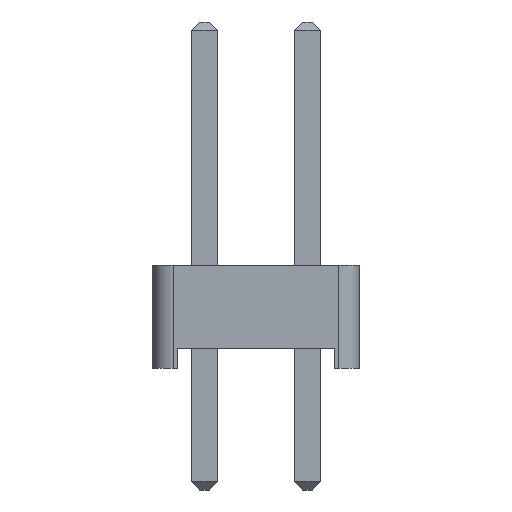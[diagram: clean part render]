
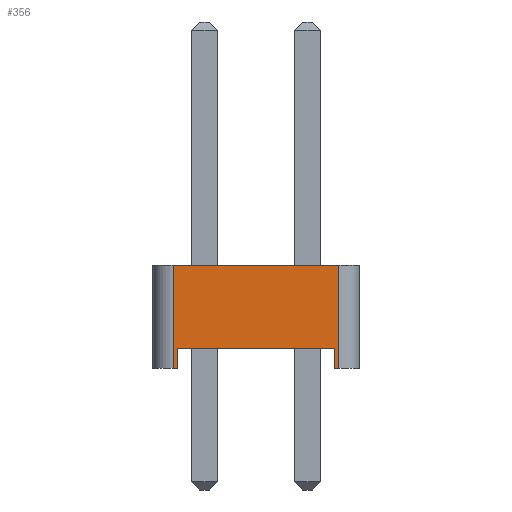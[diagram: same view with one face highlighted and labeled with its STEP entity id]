
A CAD part, left-side view. The second image highlights one B-rep face of the part: STEP entity #356.
In plain terms, the highlighted planar face has unit normal (-1, 0, 0).
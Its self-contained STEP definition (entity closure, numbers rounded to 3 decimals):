
#96 = VERTEX_POINT('',#97);
#97 = CARTESIAN_POINT('',(-1.27,2.04,0.));
#105 = PLANE('',#106);
#106 = AXIS2_PLACEMENT_3D('',#107,#108,#109);
#107 = CARTESIAN_POINT('',(0.,0.,0.));
#108 = DIRECTION('',(-0.,-0.,-1.));
#109 = DIRECTION('',(-1.,0.,0.));
#121 = CYLINDRICAL_SURFACE('',#122,0.5);
#122 = AXIS2_PLACEMENT_3D('',#123,#124,#125);
#123 = CARTESIAN_POINT('',(-0.77,2.04,0.));
#124 = DIRECTION('',(0.,0.,1.));
#125 = DIRECTION('',(0.,1.,0.));
#223 = VERTEX_POINT('',#224);
#224 = CARTESIAN_POINT('',(-1.27,1.94,0.));
#238 = PLANE('',#239);
#239 = AXIS2_PLACEMENT_3D('',#240,#241,#242);
#240 = CARTESIAN_POINT('',(1.27,1.94,0.));
#241 = DIRECTION('',(0.,-1.,0.));
#242 = DIRECTION('',(-1.,0.,0.));
#250 = EDGE_CURVE('',#223,#96,#251,.T.);
#251 = SURFACE_CURVE('',#252,(#256,#263),.PCURVE_S1.);
#252 = LINE('',#253,#254);
#253 = CARTESIAN_POINT('',(-1.27,-2.54,0.));
#254 = VECTOR('',#255,1.);
#255 = DIRECTION('',(0.,1.,0.));
#256 = PCURVE('',#105,#257);
#257 = DEFINITIONAL_REPRESENTATION('',(#258),#262);
#258 = LINE('',#259,#260);
#259 = CARTESIAN_POINT('',(1.27,-2.54));
#260 = VECTOR('',#261,1.);
#261 = DIRECTION('',(0.,1.));
#262 = ( GEOMETRIC_REPRESENTATION_CONTEXT(2) 
PARAMETRIC_REPRESENTATION_CONTEXT() REPRESENTATION_CONTEXT('2D SPACE',''
  ) );
#263 = PCURVE('',#264,#269);
#264 = PLANE('',#265);
#265 = AXIS2_PLACEMENT_3D('',#266,#267,#268);
#266 = CARTESIAN_POINT('',(-1.27,-2.54,0.));
#267 = DIRECTION('',(-1.,0.,0.));
#268 = DIRECTION('',(0.,1.,0.));
#269 = DEFINITIONAL_REPRESENTATION('',(#270),#274);
#270 = LINE('',#271,#272);
#271 = CARTESIAN_POINT('',(0.,0.));
#272 = VECTOR('',#273,1.);
#273 = DIRECTION('',(1.,0.));
#274 = ( GEOMETRIC_REPRESENTATION_CONTEXT(2) 
PARAMETRIC_REPRESENTATION_CONTEXT() REPRESENTATION_CONTEXT('2D SPACE',''
  ) );
#280 = EDGE_CURVE('',#96,#281,#283,.T.);
#281 = VERTEX_POINT('',#282);
#282 = CARTESIAN_POINT('',(-1.27,2.04,2.54));
#283 = SURFACE_CURVE('',#284,(#288,#295),.PCURVE_S1.);
#284 = LINE('',#285,#286);
#285 = CARTESIAN_POINT('',(-1.27,2.04,0.));
#286 = VECTOR('',#287,1.);
#287 = DIRECTION('',(0.,0.,1.));
#288 = PCURVE('',#121,#289);
#289 = DEFINITIONAL_REPRESENTATION('',(#290),#294);
#290 = LINE('',#291,#292);
#291 = CARTESIAN_POINT('',(1.571,0.));
#292 = VECTOR('',#293,1.);
#293 = DIRECTION('',(0.,1.));
#294 = ( GEOMETRIC_REPRESENTATION_CONTEXT(2) 
PARAMETRIC_REPRESENTATION_CONTEXT() REPRESENTATION_CONTEXT('2D SPACE',''
  ) );
#295 = PCURVE('',#264,#296);
#296 = DEFINITIONAL_REPRESENTATION('',(#297),#301);
#297 = LINE('',#298,#299);
#298 = CARTESIAN_POINT('',(4.58,0.));
#299 = VECTOR('',#300,1.);
#300 = DIRECTION('',(0.,-1.));
#301 = ( GEOMETRIC_REPRESENTATION_CONTEXT(2) 
PARAMETRIC_REPRESENTATION_CONTEXT() REPRESENTATION_CONTEXT('2D SPACE',''
  ) );
#320 = PLANE('',#321);
#321 = AXIS2_PLACEMENT_3D('',#322,#323,#324);
#322 = CARTESIAN_POINT('',(0.,0.,2.54));
#323 = DIRECTION('',(-0.,-0.,-1.));
#324 = DIRECTION('',(-1.,0.,0.));
#356 = ADVANCED_FACE('',(#357),#264,.T.);
#357 = FACE_BOUND('',#358,.T.);
#358 = EDGE_LOOP('',(#359,#389,#417,#438,#439,#440,#463,#491));
#359 = ORIENTED_EDGE('',*,*,#360,.F.);
#360 = EDGE_CURVE('',#361,#363,#365,.T.);
#361 = VERTEX_POINT('',#362);
#362 = CARTESIAN_POINT('',(-1.27,-2.04,0.));
#363 = VERTEX_POINT('',#364);
#364 = CARTESIAN_POINT('',(-1.27,-1.94,0.));
#365 = SURFACE_CURVE('',#366,(#370,#377),.PCURVE_S1.);
#366 = LINE('',#367,#368);
#367 = CARTESIAN_POINT('',(-1.27,-2.54,0.));
#368 = VECTOR('',#369,1.);
#369 = DIRECTION('',(0.,1.,0.));
#370 = PCURVE('',#264,#371);
#371 = DEFINITIONAL_REPRESENTATION('',(#372),#376);
#372 = LINE('',#373,#374);
#373 = CARTESIAN_POINT('',(0.,0.));
#374 = VECTOR('',#375,1.);
#375 = DIRECTION('',(1.,0.));
#376 = ( GEOMETRIC_REPRESENTATION_CONTEXT(2) 
PARAMETRIC_REPRESENTATION_CONTEXT() REPRESENTATION_CONTEXT('2D SPACE',''
  ) );
#377 = PCURVE('',#378,#383);
#378 = PLANE('',#379);
#379 = AXIS2_PLACEMENT_3D('',#380,#381,#382);
#380 = CARTESIAN_POINT('',(0.,0.,0.));
#381 = DIRECTION('',(-0.,-0.,-1.));
#382 = DIRECTION('',(-1.,0.,0.));
#383 = DEFINITIONAL_REPRESENTATION('',(#384),#388);
#384 = LINE('',#385,#386);
#385 = CARTESIAN_POINT('',(1.27,-2.54));
#386 = VECTOR('',#387,1.);
#387 = DIRECTION('',(0.,1.));
#388 = ( GEOMETRIC_REPRESENTATION_CONTEXT(2) 
PARAMETRIC_REPRESENTATION_CONTEXT() REPRESENTATION_CONTEXT('2D SPACE',''
  ) );
#389 = ORIENTED_EDGE('',*,*,#390,.T.);
#390 = EDGE_CURVE('',#361,#391,#393,.T.);
#391 = VERTEX_POINT('',#392);
#392 = CARTESIAN_POINT('',(-1.27,-2.04,2.54));
#393 = SURFACE_CURVE('',#394,(#398,#405),.PCURVE_S1.);
#394 = LINE('',#395,#396);
#395 = CARTESIAN_POINT('',(-1.27,-2.04,0.));
#396 = VECTOR('',#397,1.);
#397 = DIRECTION('',(0.,0.,1.));
#398 = PCURVE('',#264,#399);
#399 = DEFINITIONAL_REPRESENTATION('',(#400),#404);
#400 = LINE('',#401,#402);
#401 = CARTESIAN_POINT('',(0.5,0.));
#402 = VECTOR('',#403,1.);
#403 = DIRECTION('',(0.,-1.));
#404 = ( GEOMETRIC_REPRESENTATION_CONTEXT(2) 
PARAMETRIC_REPRESENTATION_CONTEXT() REPRESENTATION_CONTEXT('2D SPACE',''
  ) );
#405 = PCURVE('',#406,#411);
#406 = CYLINDRICAL_SURFACE('',#407,0.5);
#407 = AXIS2_PLACEMENT_3D('',#408,#409,#410);
#408 = CARTESIAN_POINT('',(-0.77,-2.04,0.));
#409 = DIRECTION('',(0.,0.,1.));
#410 = DIRECTION('',(0.,-1.,0.));
#411 = DEFINITIONAL_REPRESENTATION('',(#412),#416);
#412 = LINE('',#413,#414);
#413 = CARTESIAN_POINT('',(-1.571,0.));
#414 = VECTOR('',#415,1.);
#415 = DIRECTION('',(-0.,1.));
#416 = ( GEOMETRIC_REPRESENTATION_CONTEXT(2) 
PARAMETRIC_REPRESENTATION_CONTEXT() REPRESENTATION_CONTEXT('2D SPACE',''
  ) );
#417 = ORIENTED_EDGE('',*,*,#418,.T.);
#418 = EDGE_CURVE('',#391,#281,#419,.T.);
#419 = SURFACE_CURVE('',#420,(#424,#431),.PCURVE_S1.);
#420 = LINE('',#421,#422);
#421 = CARTESIAN_POINT('',(-1.27,-2.54,2.54));
#422 = VECTOR('',#423,1.);
#423 = DIRECTION('',(0.,1.,0.));
#424 = PCURVE('',#264,#425);
#425 = DEFINITIONAL_REPRESENTATION('',(#426),#430);
#426 = LINE('',#427,#428);
#427 = CARTESIAN_POINT('',(0.,-2.54));
#428 = VECTOR('',#429,1.);
#429 = DIRECTION('',(1.,0.));
#430 = ( GEOMETRIC_REPRESENTATION_CONTEXT(2) 
PARAMETRIC_REPRESENTATION_CONTEXT() REPRESENTATION_CONTEXT('2D SPACE',''
  ) );
#431 = PCURVE('',#320,#432);
#432 = DEFINITIONAL_REPRESENTATION('',(#433),#437);
#433 = LINE('',#434,#435);
#434 = CARTESIAN_POINT('',(1.27,-2.54));
#435 = VECTOR('',#436,1.);
#436 = DIRECTION('',(0.,1.));
#437 = ( GEOMETRIC_REPRESENTATION_CONTEXT(2) 
PARAMETRIC_REPRESENTATION_CONTEXT() REPRESENTATION_CONTEXT('2D SPACE',''
  ) );
#438 = ORIENTED_EDGE('',*,*,#280,.F.);
#439 = ORIENTED_EDGE('',*,*,#250,.F.);
#440 = ORIENTED_EDGE('',*,*,#441,.T.);
#441 = EDGE_CURVE('',#223,#442,#444,.T.);
#442 = VERTEX_POINT('',#443);
#443 = CARTESIAN_POINT('',(-1.27,1.94,0.5));
#444 = SURFACE_CURVE('',#445,(#449,#456),.PCURVE_S1.);
#445 = LINE('',#446,#447);
#446 = CARTESIAN_POINT('',(-1.27,1.94,0.));
#447 = VECTOR('',#448,1.);
#448 = DIRECTION('',(0.,0.,1.));
#449 = PCURVE('',#264,#450);
#450 = DEFINITIONAL_REPRESENTATION('',(#451),#455);
#451 = LINE('',#452,#453);
#452 = CARTESIAN_POINT('',(4.48,0.));
#453 = VECTOR('',#454,1.);
#454 = DIRECTION('',(0.,-1.));
#455 = ( GEOMETRIC_REPRESENTATION_CONTEXT(2) 
PARAMETRIC_REPRESENTATION_CONTEXT() REPRESENTATION_CONTEXT('2D SPACE',''
  ) );
#456 = PCURVE('',#238,#457);
#457 = DEFINITIONAL_REPRESENTATION('',(#458),#462);
#458 = LINE('',#459,#460);
#459 = CARTESIAN_POINT('',(2.54,0.));
#460 = VECTOR('',#461,1.);
#461 = DIRECTION('',(0.,-1.));
#462 = ( GEOMETRIC_REPRESENTATION_CONTEXT(2) 
PARAMETRIC_REPRESENTATION_CONTEXT() REPRESENTATION_CONTEXT('2D SPACE',''
  ) );
#463 = ORIENTED_EDGE('',*,*,#464,.T.);
#464 = EDGE_CURVE('',#442,#465,#467,.T.);
#465 = VERTEX_POINT('',#466);
#466 = CARTESIAN_POINT('',(-1.27,-1.94,0.5));
#467 = SURFACE_CURVE('',#468,(#472,#479),.PCURVE_S1.);
#468 = LINE('',#469,#470);
#469 = CARTESIAN_POINT('',(-1.27,1.94,0.5));
#470 = VECTOR('',#471,1.);
#471 = DIRECTION('',(0.,-1.,0.));
#472 = PCURVE('',#264,#473);
#473 = DEFINITIONAL_REPRESENTATION('',(#474),#478);
#474 = LINE('',#475,#476);
#475 = CARTESIAN_POINT('',(4.48,-0.5));
#476 = VECTOR('',#477,1.);
#477 = DIRECTION('',(-1.,0.));
#478 = ( GEOMETRIC_REPRESENTATION_CONTEXT(2) 
PARAMETRIC_REPRESENTATION_CONTEXT() REPRESENTATION_CONTEXT('2D SPACE',''
  ) );
#479 = PCURVE('',#480,#485);
#480 = PLANE('',#481);
#481 = AXIS2_PLACEMENT_3D('',#482,#483,#484);
#482 = CARTESIAN_POINT('',(0.,0.,0.5));
#483 = DIRECTION('',(0.,0.,1.));
#484 = DIRECTION('',(1.,0.,0.));
#485 = DEFINITIONAL_REPRESENTATION('',(#486),#490);
#486 = LINE('',#487,#488);
#487 = CARTESIAN_POINT('',(-1.27,1.94));
#488 = VECTOR('',#489,1.);
#489 = DIRECTION('',(0.,-1.));
#490 = ( GEOMETRIC_REPRESENTATION_CONTEXT(2) 
PARAMETRIC_REPRESENTATION_CONTEXT() REPRESENTATION_CONTEXT('2D SPACE',''
  ) );
#491 = ORIENTED_EDGE('',*,*,#492,.F.);
#492 = EDGE_CURVE('',#363,#465,#493,.T.);
#493 = SURFACE_CURVE('',#494,(#498,#505),.PCURVE_S1.);
#494 = LINE('',#495,#496);
#495 = CARTESIAN_POINT('',(-1.27,-1.94,0.));
#496 = VECTOR('',#497,1.);
#497 = DIRECTION('',(0.,0.,1.));
#498 = PCURVE('',#264,#499);
#499 = DEFINITIONAL_REPRESENTATION('',(#500),#504);
#500 = LINE('',#501,#502);
#501 = CARTESIAN_POINT('',(0.6,0.));
#502 = VECTOR('',#503,1.);
#503 = DIRECTION('',(0.,-1.));
#504 = ( GEOMETRIC_REPRESENTATION_CONTEXT(2) 
PARAMETRIC_REPRESENTATION_CONTEXT() REPRESENTATION_CONTEXT('2D SPACE',''
  ) );
#505 = PCURVE('',#506,#511);
#506 = PLANE('',#507);
#507 = AXIS2_PLACEMENT_3D('',#508,#509,#510);
#508 = CARTESIAN_POINT('',(-1.27,-1.94,0.));
#509 = DIRECTION('',(0.,1.,0.));
#510 = DIRECTION('',(1.,0.,0.));
#511 = DEFINITIONAL_REPRESENTATION('',(#512),#516);
#512 = LINE('',#513,#514);
#513 = CARTESIAN_POINT('',(0.,0.));
#514 = VECTOR('',#515,1.);
#515 = DIRECTION('',(0.,-1.));
#516 = ( GEOMETRIC_REPRESENTATION_CONTEXT(2) 
PARAMETRIC_REPRESENTATION_CONTEXT() REPRESENTATION_CONTEXT('2D SPACE',''
  ) );
